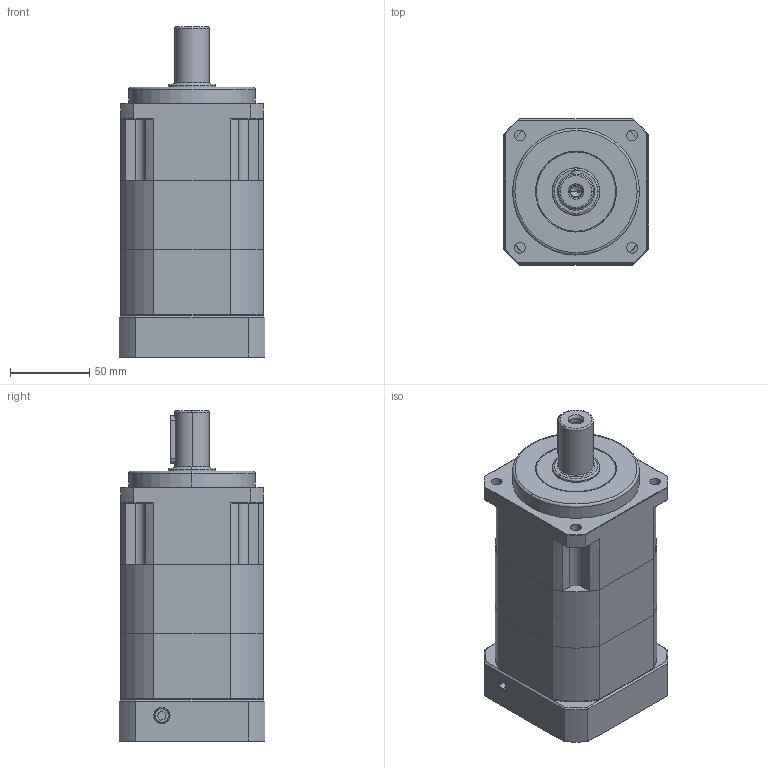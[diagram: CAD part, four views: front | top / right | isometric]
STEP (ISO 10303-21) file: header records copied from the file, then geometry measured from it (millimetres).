
FILE_DESCRIPTION (( 'STEP AP203' ), '1' );
FILE_NAME ('SB90A-2-80M6.STEP', '2011-07-12T01:15:04', ( '1' ), ( '' ), 'SwSTEP 2.0', 'SolidWorks 2011', '' );
FILE_SCHEMA (( 'CONFIG_CONTROL_DESIGN' ));
Length unit declared in the file: millimetre
Products named in the file (1): SB90A-2-80M6
Bounding box: 92 x 92 x 208 mm (x, y, z)
Volume: 1030637.1 mm3; surface area: 171186.5 mm2
Topology: 17 solids, 17 shells, 633 faces, 1520 edges, 944 vertices
Faces by surface type: plane 267, cylinder 216, cone 115, torus 26, bspline 9
Entity records: 19372 total; most frequent: CARTESIAN_POINT 4339, DIRECTION 3261, ORIENTED_EDGE 2988, EDGE_CURVE 1494, AXIS2_PLACEMENT_3D 1240, VERTEX_POINT 944, LINE 781, VECTOR 781
